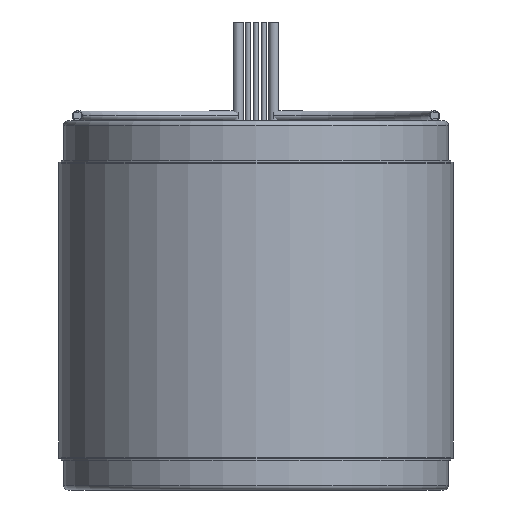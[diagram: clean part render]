
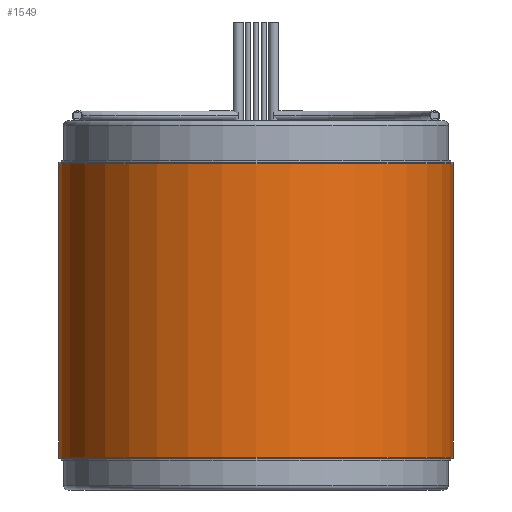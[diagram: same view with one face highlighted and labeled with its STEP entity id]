
A CAD part, front view. The second image highlights one B-rep face of the part: STEP entity #1549.
In plain terms, the highlighted cylindrical face has radius 50.8 mm (diameter 101.6 mm), a partial arc.
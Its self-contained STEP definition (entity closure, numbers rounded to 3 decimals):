
#150 = CARTESIAN_POINT ( 'NONE',  ( 0., 0., -37.744 ) ) ;
#256 = LINE ( 'NONE', #1585, #1667 ) ;
#511 = CARTESIAN_POINT ( 'NONE',  ( 0., 0., 37.744 ) ) ;
#524 = DIRECTION ( 'NONE',  ( 0., 0., -1. ) ) ;
#542 = VERTEX_POINT ( 'NONE', #1811 ) ;
#545 = DIRECTION ( 'NONE',  ( 0., 0., -1. ) ) ;
#588 = VERTEX_POINT ( 'NONE', #894 ) ;
#725 = EDGE_CURVE ( 'NONE', #1553, #588, #1788, .T. ) ;
#726 = DIRECTION ( 'NONE',  ( 0., 0., -1. ) ) ;
#830 = CARTESIAN_POINT ( 'NONE',  ( 50.8, 0., 37.744 ) ) ;
#894 = CARTESIAN_POINT ( 'NONE',  ( 50.8, 0., 37.744 ) ) ;
#935 = EDGE_CURVE ( 'NONE', #588, #3105, #1193, .T. ) ;
#953 = DIRECTION ( 'NONE',  ( 1., 0., 0. ) ) ;
#1030 = DIRECTION ( 'NONE',  ( -1., 0., 0. ) ) ;
#1054 = CIRCLE ( 'NONE', #2636, 50.8 ) ;
#1152 = EDGE_LOOP ( 'NONE', ( #2839, #1998, #1972, #2153 ) ) ;
#1193 = LINE ( 'NONE', #830, #3241 ) ;
#1457 = AXIS2_PLACEMENT_3D ( 'NONE', #511, #2336, #1538 ) ;
#1524 = EDGE_CURVE ( 'NONE', #1553, #542, #256, .T. ) ;
#1538 = DIRECTION ( 'NONE',  ( 1., 0., 0. ) ) ;
#1549 = ADVANCED_FACE ( 'NONE', ( #2948 ), #2609, .T. ) ;
#1553 = VERTEX_POINT ( 'NONE', #2873 ) ;
#1555 = CARTESIAN_POINT ( 'NONE',  ( 50.8, 0., -37.744 ) ) ;
#1585 = CARTESIAN_POINT ( 'NONE',  ( -50.8, 0., 37.744 ) ) ;
#1667 = VECTOR ( 'NONE', #726, 1000. ) ;
#1788 = CIRCLE ( 'NONE', #1457, 50.8 ) ;
#1811 = CARTESIAN_POINT ( 'NONE',  ( -50.8, 0., -37.744 ) ) ;
#1853 = CARTESIAN_POINT ( 'NONE',  ( 0., 0., 37.744 ) ) ;
#1972 = ORIENTED_EDGE ( 'NONE', *, *, #1524, .T. ) ;
#1998 = ORIENTED_EDGE ( 'NONE', *, *, #725, .F. ) ;
#2153 = ORIENTED_EDGE ( 'NONE', *, *, #2606, .T. ) ;
#2336 = DIRECTION ( 'NONE',  ( 0., 0., 1. ) ) ;
#2576 = DIRECTION ( 'NONE',  ( 0., 0., 1. ) ) ;
#2606 = EDGE_CURVE ( 'NONE', #542, #3105, #1054, .T. ) ;
#2609 = CYLINDRICAL_SURFACE ( 'NONE', #2791, 50.8 ) ;
#2636 = AXIS2_PLACEMENT_3D ( 'NONE', #150, #2576, #953 ) ;
#2791 = AXIS2_PLACEMENT_3D ( 'NONE', #1853, #524, #1030 ) ;
#2839 = ORIENTED_EDGE ( 'NONE', *, *, #935, .F. ) ;
#2873 = CARTESIAN_POINT ( 'NONE',  ( -50.8, 0., 37.744 ) ) ;
#2948 = FACE_OUTER_BOUND ( 'NONE', #1152, .T. ) ;
#3105 = VERTEX_POINT ( 'NONE', #1555 ) ;
#3241 = VECTOR ( 'NONE', #545, 1000. ) ;
